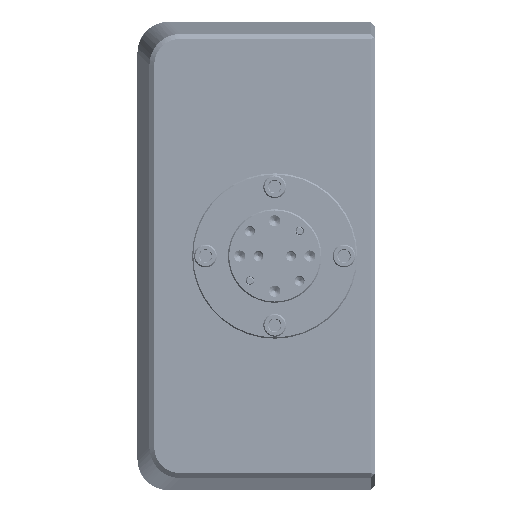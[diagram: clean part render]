
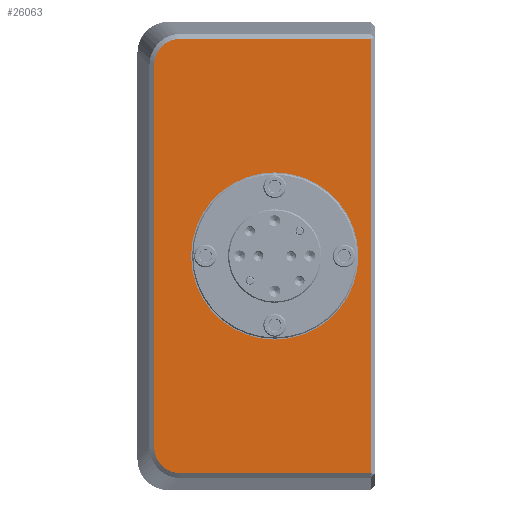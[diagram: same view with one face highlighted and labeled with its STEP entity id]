
A CAD part, left-side view. The second image highlights one B-rep face of the part: STEP entity #26063.
In plain terms, the highlighted planar face has unit normal (-1, 0, 0).
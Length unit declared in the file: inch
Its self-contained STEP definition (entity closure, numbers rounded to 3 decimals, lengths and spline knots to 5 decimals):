
#952 = CARTESIAN_POINT ( 'NONE',  ( -0.753, 1.68485, 1.69836 ) ) ;
#1365 = VERTEX_POINT ( 'NONE', #38435 ) ;
#8140 = CARTESIAN_POINT ( 'NONE',  ( -0.753, 1.76508, 1.53116 ) ) ;
#9255 = CARTESIAN_POINT ( 'NONE',  ( -0.753, 1.61115, -1.73465 ) ) ;
#16971 = CARTESIAN_POINT ( 'NONE',  ( -0.753, 1.55616, 1.74008 ) ) ;
#18378 = CARTESIAN_POINT ( 'NONE',  ( -0.753, 1.75965, 1.58615 ) ) ;
#22674 = CARTESIAN_POINT ( 'NONE',  ( -0.753, 1.66162, 1.71385 ) ) ;
#26063 = ADVANCED_FACE ( 'NONE', ( #51690, #76363 ), #274435, .F. ) ;
#30132 = EDGE_CURVE ( 'NONE', #1365, #47807, #204240, .T. ) ;
#30512 = CARTESIAN_POINT ( 'NONE',  ( -0.753, 0.8, -0.67 ) ) ;
#30971 = CARTESIAN_POINT ( 'NONE',  ( -0.753, 1.76508, -1.53116 ) ) ;
#34953 = DIRECTION ( 'NONE',  ( -1., 0., 0. ) ) ;
#36305 = VECTOR ( 'NONE', #121948, 39.37008 ) ;
#37203 = CIRCLE ( 'NONE', #148247, 0.67 ) ;
#38435 = CARTESIAN_POINT ( 'NONE',  ( -0.753, 1.76508, -1.53116 ) ) ;
#39000 = EDGE_CURVE ( 'NONE', #98284, #137034, #37203, .T. ) ;
#42985 = CARTESIAN_POINT ( 'NONE',  ( -0.753, 1.58364, 1.74008 ) ) ;
#47331 = DIRECTION ( 'NONE',  ( 0., 0., -1. ) ) ;
#47418 = AXIS2_PLACEMENT_3D ( 'NONE', #211263, #128712, #169332 ) ;
#47807 = VERTEX_POINT ( 'NONE', #103616 ) ;
#51690 = FACE_OUTER_BOUND ( 'NONE', #285315, .T. ) ;
#55574 = ORIENTED_EDGE ( 'NONE', *, *, #89255, .T. ) ;
#58280 = ORIENTED_EDGE ( 'NONE', *, *, #177520, .F. ) ;
#59284 = EDGE_CURVE ( 'NONE', #47807, #194300, #223492, .T. ) ;
#59769 = B_SPLINE_CURVE_WITH_KNOTS ( 'NONE', 3,
 ( #16971, #42985, #261481, #22674, #952, #281775, #83661, #18378, #196458, #8140 ),
 .UNSPECIFIED., .F., .F.,
 ( 4, 2, 2, 2, 4 ),
 ( 0., 0.25, 0.5, 0.75, 1. ),
 .UNSPECIFIED. ) ;
#62074 = DIRECTION ( 'NONE',  ( 0., 1., 0. ) ) ;
#72931 = EDGE_CURVE ( 'NONE', #262776, #1365, #156017, .T. ) ;
#74538 = CARTESIAN_POINT ( 'NONE',  ( -0.753, 1.73885, -1.63662 ) ) ;
#76363 = FACE_BOUND ( 'NONE', #232313, .T. ) ;
#82517 = VECTOR ( 'NONE', #112253, 39.37008 ) ;
#83661 = CARTESIAN_POINT ( 'NONE',  ( -0.753, 1.73884, 1.63662 ) ) ;
#84557 = CARTESIAN_POINT ( 'NONE',  ( -0.753, 1.55616, 1.74008 ) ) ;
#89255 = EDGE_CURVE ( 'NONE', #194300, #108020, #166797, .T. ) ;
#93573 = ORIENTED_EDGE ( 'NONE', *, *, #30132, .T. ) ;
#98284 = VERTEX_POINT ( 'NONE', #30512 ) ;
#100530 = CARTESIAN_POINT ( 'NONE',  ( -0.753, 1.68486, -1.69836 ) ) ;
#103616 = CARTESIAN_POINT ( 'NONE',  ( -0.753, 1.55616, -1.74008 ) ) ;
#104726 = EDGE_CURVE ( 'NONE', #115671, #262776, #59769, .T. ) ;
#105430 = ORIENTED_EDGE ( 'NONE', *, *, #59284, .T. ) ;
#107701 = CIRCLE ( 'NONE', #47418, 0.67 ) ;
#108020 = VERTEX_POINT ( 'NONE', #147299 ) ;
#112253 = DIRECTION ( 'NONE',  ( 0., -1., 0. ) ) ;
#115257 = ORIENTED_EDGE ( 'NONE', *, *, #72931, .T. ) ;
#115671 = VERTEX_POINT ( 'NONE', #84557 ) ;
#121770 = AXIS2_PLACEMENT_3D ( 'NONE', #231048, #122611, #164613 ) ;
#121948 = DIRECTION ( 'NONE',  ( 0., 0., 1. ) ) ;
#122611 = DIRECTION ( 'NONE',  ( 1., 0., 0. ) ) ;
#128712 = DIRECTION ( 'NONE',  ( -1., 0., 0. ) ) ;
#137034 = VERTEX_POINT ( 'NONE', #247174 ) ;
#143928 = CARTESIAN_POINT ( 'NONE',  ( -0.753, 1.72336, -1.65985 ) ) ;
#146776 = CARTESIAN_POINT ( 'NONE',  ( -0.753, 1.75964, -1.58614 ) ) ;
#147299 = CARTESIAN_POINT ( 'NONE',  ( -0.753, 0.03, 1.74008 ) ) ;
#148247 = AXIS2_PLACEMENT_3D ( 'NONE', #275167, #34953, #211511 ) ;
#151306 = CARTESIAN_POINT ( 'NONE',  ( -0.753, 0.95, -1.74008 ) ) ;
#156017 = LINE ( 'NONE', #157426, #237507 ) ;
#157426 = CARTESIAN_POINT ( 'NONE',  ( -0.753, 1.76508, 0. ) ) ;
#164613 = DIRECTION ( 'NONE',  ( 0., 0., -1. ) ) ;
#166797 = LINE ( 'NONE', #212998, #36305 ) ;
#169332 = DIRECTION ( 'NONE',  ( 0., 0., 1. ) ) ;
#170507 = EDGE_CURVE ( 'NONE', #108020, #115671, #218258, .T. ) ;
#170662 = CARTESIAN_POINT ( 'NONE',  ( -0.753, 0.95, 1.74008 ) ) ;
#175326 = ORIENTED_EDGE ( 'NONE', *, *, #104726, .T. ) ;
#177520 = EDGE_CURVE ( 'NONE', #137034, #98284, #107701, .T. ) ;
#185867 = CARTESIAN_POINT ( 'NONE',  ( -0.753, 1.5837, -1.74008 ) ) ;
#186685 = ORIENTED_EDGE ( 'NONE', *, *, #170507, .T. ) ;
#187290 = CARTESIAN_POINT ( 'NONE',  ( -0.753, 1.55616, -1.74008 ) ) ;
#194300 = VERTEX_POINT ( 'NONE', #266569 ) ;
#195014 = CARTESIAN_POINT ( 'NONE',  ( -0.753, 1.76508, 1.53116 ) ) ;
#196458 = CARTESIAN_POINT ( 'NONE',  ( -0.753, 1.76508, 1.5587 ) ) ;
#204240 = B_SPLINE_CURVE_WITH_KNOTS ( 'NONE', 3,
 ( #30971, #207526, #146776, #74538, #143928, #100530, #208977, #9255, #185867, #187290 ),
 .UNSPECIFIED., .F., .F.,
 ( 4, 2, 2, 2, 4 ),
 ( 0., 0.25, 0.5, 0.75, 1. ),
 .UNSPECIFIED. ) ;
#207526 = CARTESIAN_POINT ( 'NONE',  ( -0.753, 1.76508, -1.55864 ) ) ;
#208977 = CARTESIAN_POINT ( 'NONE',  ( -0.753, 1.66162, -1.71384 ) ) ;
#211263 = CARTESIAN_POINT ( 'NONE',  ( -0.753, 0.8, 0. ) ) ;
#211511 = DIRECTION ( 'NONE',  ( 0., 0., 1. ) ) ;
#212998 = CARTESIAN_POINT ( 'NONE',  ( -0.753, 0.03, 0. ) ) ;
#218258 = LINE ( 'NONE', #170662, #239628 ) ;
#219572 = ORIENTED_EDGE ( 'NONE', *, *, #39000, .F. ) ;
#223492 = LINE ( 'NONE', #151306, #82517 ) ;
#231048 = CARTESIAN_POINT ( 'NONE',  ( -0.753, 0.95, 0. ) ) ;
#232313 = EDGE_LOOP ( 'NONE', ( #58280, #219572 ) ) ;
#237507 = VECTOR ( 'NONE', #47331, 39.37008 ) ;
#239628 = VECTOR ( 'NONE', #62074, 39.37008 ) ;
#247174 = CARTESIAN_POINT ( 'NONE',  ( -0.753, 0.8, 0.67 ) ) ;
#261481 = CARTESIAN_POINT ( 'NONE',  ( -0.753, 1.61114, 1.73464 ) ) ;
#262776 = VERTEX_POINT ( 'NONE', #195014 ) ;
#266569 = CARTESIAN_POINT ( 'NONE',  ( -0.753, 0.03, -1.74008 ) ) ;
#274435 = PLANE ( 'NONE',  #121770 ) ;
#275167 = CARTESIAN_POINT ( 'NONE',  ( -0.753, 0.8, 0. ) ) ;
#281775 = CARTESIAN_POINT ( 'NONE',  ( -0.753, 1.72336, 1.65986 ) ) ;
#285315 = EDGE_LOOP ( 'NONE', ( #93573, #105430, #55574, #186685, #175326, #115257 ) ) ;
